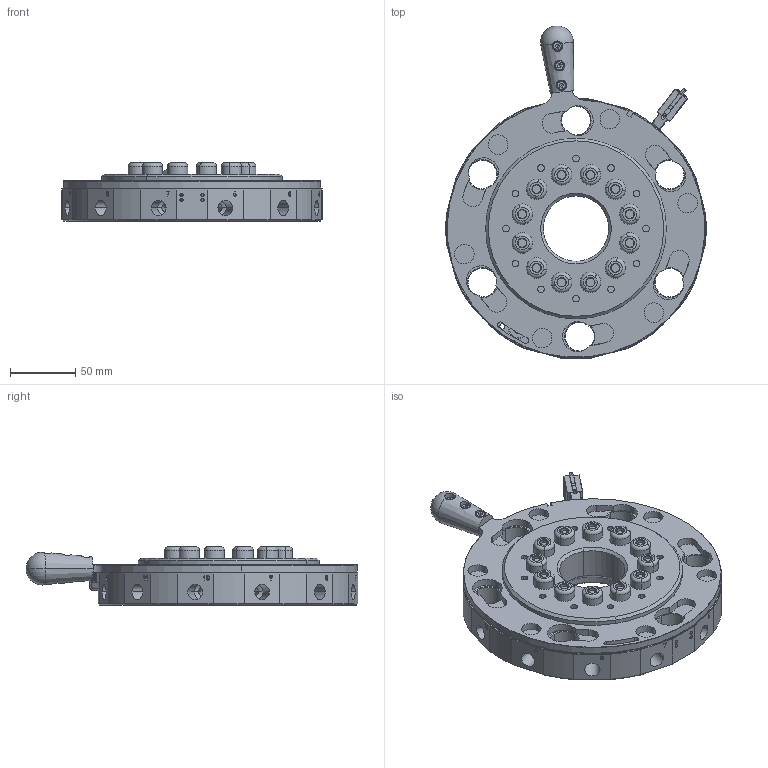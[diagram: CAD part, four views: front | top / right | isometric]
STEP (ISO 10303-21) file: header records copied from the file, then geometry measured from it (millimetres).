
FILE_DESCRIPTION (( 'STEP AP203' ), '1' );
FILE_NAME ('QC-R200K.STEP', '2024-03-20T05:43:57', ( '微软用户' ), ( '微软中国' ), 'SwSTEP 2.0', 'SolidWorks 2018', '' );
FILE_SCHEMA (( 'CONFIG_CONTROL_DESIGN' ));
Length unit declared in the file: millimetre
Products named in the file (3): QC-R200K.sldasm-Part-1; QC-R200K.sldasm-Part-2; QC-R200K
Assembly tree (2 placements, depth 2):
  QC-R200K
    QC-R200K.sldasm-Part-1
    QC-R200K.sldasm-Part-2
Bounding box: 198.84 x 253.48 x 44.4 mm (x, y, z)
Volume: 837524 mm3; surface area: 193166 mm2
Topology: 2 solids, 47 shells, 1723 faces, 3938 edges, 2434 vertices
Faces by surface type: plane 668, cylinder 610, cone 286, torus 74, bspline 52, sphere 33
Entity records: 55123 total; most frequent: CARTESIAN_POINT 15273, DIRECTION 8713, ORIENTED_EDGE 7788, EDGE_CURVE 3894, AXIS2_PLACEMENT_3D 3428, VERTEX_POINT 2430, EDGE_LOOP 2010, VECTOR 1857
